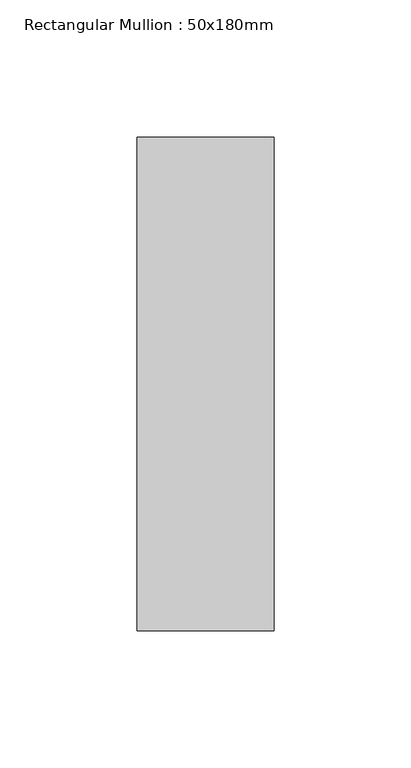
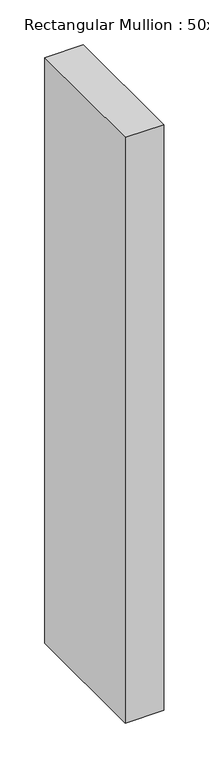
"""IFC4 building model written with IfcOpenShell, lengths in millimetres: member geometry, Rectangular Mullion : 50x180mm."""

from ifc_helpers import new_model, si_unit, frame, origin, place, context, project, spatial, polyline, outline, extrude, source, transform, mapped, element, save


def rectangular_mullion_50x180mm_1c28dd9e(model_context):
    return source(origin(), model_context, "Body", "SweptSolid", [
        extrude(outline(polyline([(0.0, 90.0), (0.0, -90.0), (-50.0, -90.0), (-50.0, 90.0), (0.0, 90.0)])), frame((0.0, 0.0, -800.0), z_axis=(0.0, 0.0, 1.0), x_axis=(1.0, 0.0, 0.0)), (0.0, 0.0, 1.0), 800.0),
    ])


if __name__ == "__main__":
    model = new_model("IFC4")
    model_context = context("Model", 3, world=origin())
    ifc_project = project(units=[si_unit("LENGTHUNIT", "METRE", prefix="MILLI")], contexts=[model_context])
    site = spatial("IfcSite", under=ifc_project)
    building = spatial("IfcBuilding", under=site)
    placement = place(None, origin())
    rectangular_mullion_50x180mm_shape = rectangular_mullion_50x180mm_1c28dd9e(model_context)
    element("IfcMember", 1, ObjectType="Rectangular Mullion : 50x180mm", at=placement, inside=building, context=model_context, shape_type="MappedRepresentation", body=[
        mapped(rectangular_mullion_50x180mm_shape, transform((0.0, 0.0, 0.0), x_axis=(1.0, 0.0, 0.0), y_axis=(0.0, 1.0, 0.0), z_axis=(0.0, 0.0, 1.0))),
    ])
    save(model, "model.ifc")
